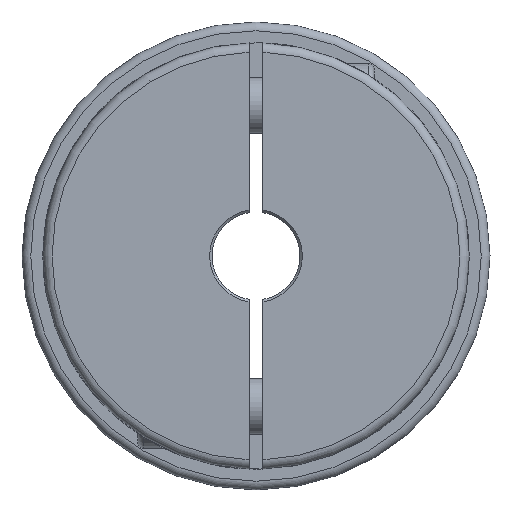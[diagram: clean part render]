
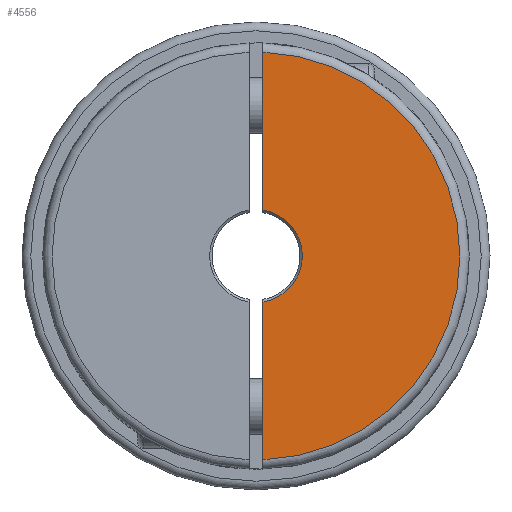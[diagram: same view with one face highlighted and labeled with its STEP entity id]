
A CAD part, left-side view. The second image highlights one B-rep face of the part: STEP entity #4556.
In plain terms, the highlighted planar face has unit normal (-1, 0, 0).
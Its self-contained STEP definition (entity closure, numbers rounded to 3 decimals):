
#154=LINE('',#7355,#306);
#163=LINE('',#7380,#315);
#306=VECTOR('',#5692,1000.);
#315=VECTOR('',#5705,1000.);
#1031=ORIENTED_EDGE('',*,*,#1553,.F.);
#1032=ORIENTED_EDGE('',*,*,#1480,.F.);
#1033=ORIENTED_EDGE('',*,*,#1542,.T.);
#1034=ORIENTED_EDGE('',*,*,#1566,.T.);
#1480=EDGE_CURVE('',#1821,#1823,#2059,.T.);
#1542=EDGE_CURVE('',#1821,#1872,#154,.T.);
#1553=EDGE_CURVE('',#1823,#1876,#163,.T.);
#1566=EDGE_CURVE('',#1872,#1876,#2100,.T.);
#1821=VERTEX_POINT('',#6917);
#1823=VERTEX_POINT('',#6920);
#1872=VERTEX_POINT('',#7356);
#1876=VERTEX_POINT('',#7381);
#2059=CIRCLE('',#4851,10.);
#2100=CIRCLE('',#4921,44.);
#2364=EDGE_LOOP('',(#1031,#1032,#1033,#1034));
#2690=FACE_BOUND('',#2364,.T.);
#2866=PLANE('',#4933);
#4556=ADVANCED_FACE('',(#2690),#2866,.T.);
#4851=AXIS2_PLACEMENT_3D('',#6919,#5566,#5567);
#4921=AXIS2_PLACEMENT_3D('',#7414,#5730,#5731);
#4933=AXIS2_PLACEMENT_3D('',#7426,#5754,#5755);
#5566=DIRECTION('',(-1.,0.,0.));
#5567=DIRECTION('',(0.,0.,1.));
#5692=DIRECTION('',(0.,0.,-1.));
#5705=DIRECTION('',(0.,0.,1.));
#5730=DIRECTION('',(-1.,0.,0.));
#5731=DIRECTION('',(0.,0.,1.));
#5754=DIRECTION('',(-1.,0.,0.));
#5755=DIRECTION('',(0.,0.,1.));
#6917=CARTESIAN_POINT('',(-49.577,-1.5,-9.887));
#6919=CARTESIAN_POINT('',(-49.577,0.,0.));
#6920=CARTESIAN_POINT('',(-49.577,-1.5,9.887));
#7355=CARTESIAN_POINT('',(-49.577,-1.5,46.));
#7356=CARTESIAN_POINT('',(-49.577,-1.5,-43.974));
#7380=CARTESIAN_POINT('',(-49.577,-1.5,46.));
#7381=CARTESIAN_POINT('',(-49.577,-1.5,43.974));
#7414=CARTESIAN_POINT('',(-49.577,0.,0.));
#7426=CARTESIAN_POINT('',(-49.577,0.,46.));
